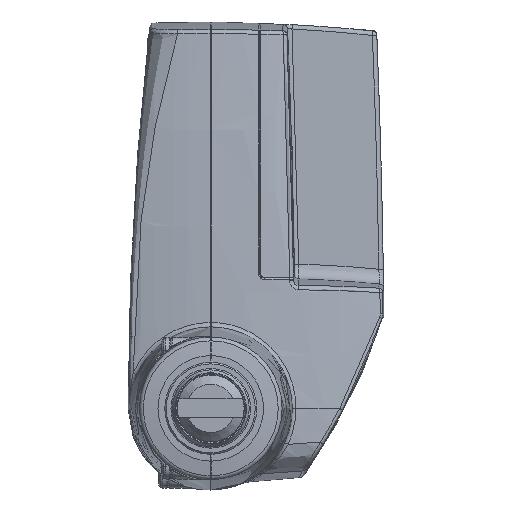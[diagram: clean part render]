
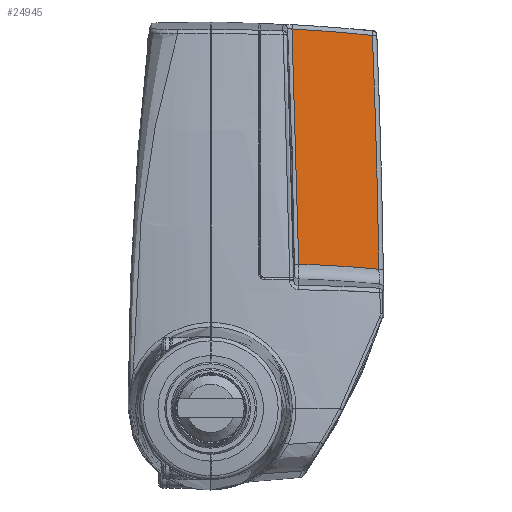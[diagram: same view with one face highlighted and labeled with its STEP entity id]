
A CAD part, left-side view. The second image highlights one B-rep face of the part: STEP entity #24945.
In plain terms, the highlighted planar face has unit normal (-0.999, -0.035, 0.035).
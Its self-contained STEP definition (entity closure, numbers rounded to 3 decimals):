
#1199=CARTESIAN_POINT('',(-32.041,-1.12,-372.881));
#1200=DIRECTION('',(0.999,0.035,-0.035));
#1201=DIRECTION('',(0.037,-0.051,0.998));
#1202=AXIS2_PLACEMENT_3D('',#1199,#1200,#1201);
#1207=CARTESIAN_POINT('',(-121.609,2939.101,4.247));
#1208=DIRECTION('',(0.999,0.035,-0.035));
#1209=DIRECTION('',(0.036,-0.999,0.039));
#1210=AXIS2_PLACEMENT_3D('',#1207,#1208,#1209);
#1215=CARTESIAN_POINT('',(-30.933,-16.707,
-356.744));
#1216=DIRECTION('',(-0.999,-0.035,0.035));
#1217=DIRECTION('',(0.038,-0.094,0.995));
#1218=AXIS2_PLACEMENT_3D('',#1215,#1216,#1217);
#1223=CARTESIAN_POINT('',(-16.414,-28.685,
47.03));
#1224=CARTESIAN_POINT('',(-15.536,-28.284,
72.593));
#1225=CARTESIAN_POINT('',(-14.669,-27.552,
98.153));
#1226=CARTESIAN_POINT('',(-13.814,-26.491,
123.698));
#21274=CARTESIAN_POINT('',(-12.97,-52.715,
121.63));
#21275=VERTEX_POINT('',#21274);
#21276=CARTESIAN_POINT('',(-15.559,-54.827,
45.373));
#21277=VERTEX_POINT('',#21276);
#21280=CARTESIAN_POINT('',(-13.814,-26.491,
123.698));
#21281=VERTEX_POINT('',#21280);
#21282=CARTESIAN_POINT('',(-16.414,-28.685,
47.03));
#21283=VERTEX_POINT('',#21282);
#24931=CARTESIAN_POINT('',(-18.5,-16.,0.));
#24932=DIRECTION('',(-0.999,-0.035,0.035));
#24933=DIRECTION('',(0.035,-0.999,-0.001));
#24934=AXIS2_PLACEMENT_3D('',#24931,#24932,#24933);
#24935=PLANE('',#24934);
#24937=ORIENTED_EDGE('',*,*,#24936,.T.);
#24938=ORIENTED_EDGE('',*,*,#24921,.T.);
#24940=ORIENTED_EDGE('',*,*,#24939,.T.);
#24942=ORIENTED_EDGE('',*,*,#24941,.T.);
#24943=EDGE_LOOP('',(#24937,#24938,#24940,#24942));
#24944=FACE_OUTER_BOUND('',#24943,.F.);
#24945=ADVANCED_FACE('',(#24944),#24935,.T.);
#1203=CIRCLE('',#1202,497.561);
#1211=CIRCLE('',#1210,2996.088);
#1219=CIRCLE('',#1218,404.212);
#1227=B_SPLINE_CURVE_WITH_KNOTS('',3,(#1223,#1224,#1225,#1226),.UNSPECIFIED.,
.F.,.F.,(4,4),(0.,1.),.UNSPECIFIED.);
#24921=EDGE_CURVE('',#21275,#21277,#1211,.T.);
#24936=EDGE_CURVE('',#21281,#21275,#1203,.T.);
#24939=EDGE_CURVE('',#21277,#21283,#1219,.T.);
#24941=EDGE_CURVE('',#21283,#21281,#1227,.T.);
